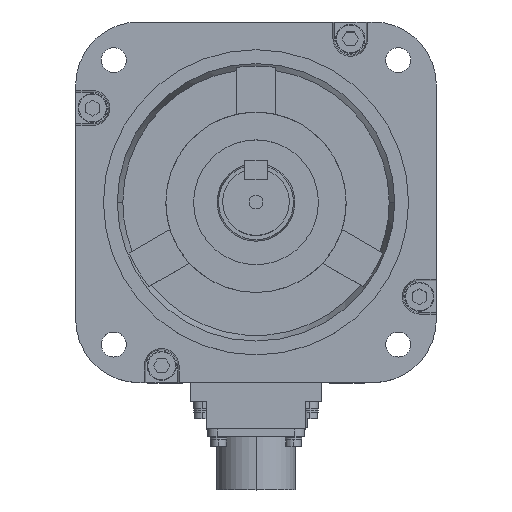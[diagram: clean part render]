
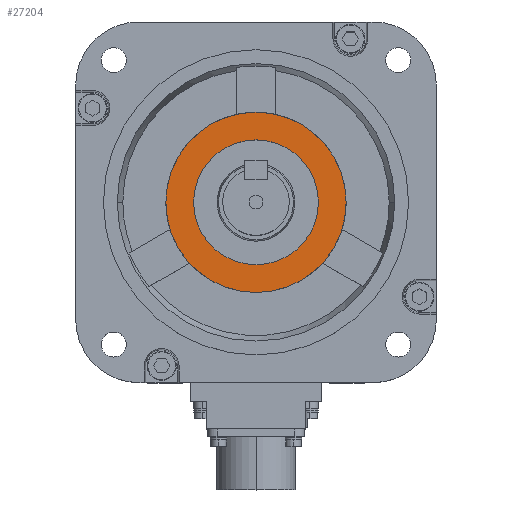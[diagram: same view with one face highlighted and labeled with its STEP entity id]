
A CAD part, top view. The second image highlights one B-rep face of the part: STEP entity #27204.
In plain terms, the highlighted planar face has unit normal (0, 0, 1).
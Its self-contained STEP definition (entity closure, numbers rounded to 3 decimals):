
#119 = EDGE_CURVE ( 'NONE', #29339, #27764, #17956, .T. ) ;
#6703 = CARTESIAN_POINT ( 'NONE',  ( 22.5, 0., 6. ) ) ;
#6710 = CARTESIAN_POINT ( 'NONE',  ( -22.5, 0., 6. ) ) ;
#6711 = DIRECTION ( 'NONE',  ( 1., 0., 0. ) ) ;
#6712 = DIRECTION ( 'NONE',  ( 0., 0., 1. ) ) ;
#6713 = CARTESIAN_POINT ( 'NONE',  ( 0., 0., 6. ) ) ;
#6714 = AXIS2_PLACEMENT_3D ( 'NONE', #6713, #6712, #6711 ) ;
#6716 = CIRCLE ( 'NONE', #6714, 22.5 ) ;
#10905 = DIRECTION ( 'NONE',  ( 1., 0., 0. ) ) ;
#10906 = DIRECTION ( 'NONE',  ( 0., 0., 1. ) ) ;
#10907 = CARTESIAN_POINT ( 'NONE',  ( 0., 0., 6. ) ) ;
#10908 = AXIS2_PLACEMENT_3D ( 'NONE', #10907, #10906, #10905 ) ;
#10917 = FACE_OUTER_BOUND ( 'NONE', #27066, .T. ) ;
#10918 = FACE_BOUND ( 'NONE', #27090, .T. ) ;
#10920 = PLANE ( 'NONE',  #10908 ) ;
#10946 = DIRECTION ( 'NONE',  ( 1., 0., 0. ) ) ;
#10947 = DIRECTION ( 'NONE',  ( 0., 0., 1. ) ) ;
#10948 = CARTESIAN_POINT ( 'NONE',  ( 0., 0., 6. ) ) ;
#10949 = AXIS2_PLACEMENT_3D ( 'NONE', #10948, #10947, #10946 ) ;
#10954 = CIRCLE ( 'NONE', #10949, 22.5 ) ;
#11997 = CARTESIAN_POINT ( 'NONE',  ( -32.5, 0., 6. ) ) ;
#12736 = EDGE_CURVE ( 'NONE', #27764, #29339, #23990, .T. ) ;
#14705 = CARTESIAN_POINT ( 'NONE',  ( 32.5, 0., 6. ) ) ;
#17614 = EDGE_CURVE ( 'NONE', #17615, #17617, #6716, .T. ) ;
#17615 = VERTEX_POINT ( 'NONE', #6710 ) ;
#17617 = VERTEX_POINT ( 'NONE', #6703 ) ;
#17953 = DIRECTION ( 'NONE',  ( 0., 0., 1. ) ) ;
#17954 = CARTESIAN_POINT ( 'NONE',  ( 0., 0., 6. ) ) ;
#17955 = AXIS2_PLACEMENT_3D ( 'NONE', #17954, #17953, #18016 ) ;
#17956 = CIRCLE ( 'NONE', #17955, 32.5 ) ;
#18016 = DIRECTION ( 'NONE',  ( 1., 0., 0. ) ) ;
#23987 = DIRECTION ( 'NONE',  ( 1., 0., 0. ) ) ;
#23988 = DIRECTION ( 'NONE',  ( 0., 0., 1. ) ) ;
#23989 = AXIS2_PLACEMENT_3D ( 'NONE', #23995, #23988, #23987 ) ;
#23990 = CIRCLE ( 'NONE', #23989, 32.5 ) ;
#23995 = CARTESIAN_POINT ( 'NONE',  ( 0., 0., 6. ) ) ;
#27062 = ORIENTED_EDGE ( 'NONE', *, *, #27211, .F. ) ;
#27064 = ORIENTED_EDGE ( 'NONE', *, *, #17614, .F. ) ;
#27065 = ORIENTED_EDGE ( 'NONE', *, *, #12736, .T. ) ;
#27066 = EDGE_LOOP ( 'NONE', ( #27071, #27065 ) ) ;
#27071 = ORIENTED_EDGE ( 'NONE', *, *, #119, .T. ) ;
#27090 = EDGE_LOOP ( 'NONE', ( #27062, #27064 ) ) ;
#27204 = ADVANCED_FACE ( 'NONE', ( #10918, #10917 ), #10920, .T. ) ;
#27211 = EDGE_CURVE ( 'NONE', #17617, #17615, #10954, .T. ) ;
#27764 = VERTEX_POINT ( 'NONE', #11997 ) ;
#29339 = VERTEX_POINT ( 'NONE', #14705 ) ;
